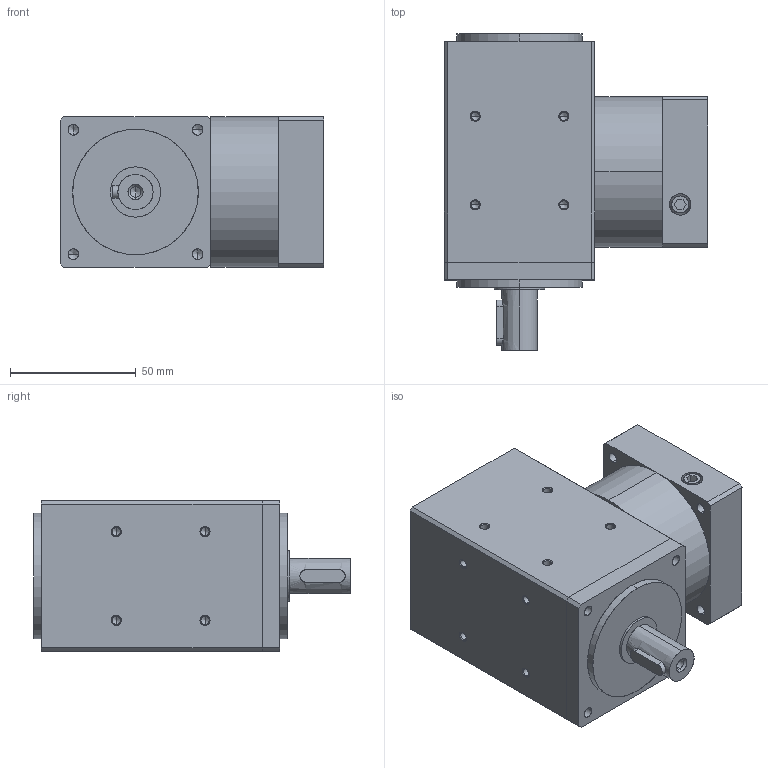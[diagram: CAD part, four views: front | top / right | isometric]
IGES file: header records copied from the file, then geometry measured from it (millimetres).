
Start section: SolidWorks IGES file using analytic representation for surfaces
Global section: file name: C:\Users\render\Documents\CAD Files\R-Gearboxes\RAAS\RAAS-060.IGS; native system: SolidWorks 2009; preprocessor: SolidWorks 2009; author: render; date: 100527.144235; units: millimetre
Bounding box: 105 x 126 x 60 mm (x, y, z)
Surface area: 64792.1 mm2 (no closed solid volume)
Topology: 0 solids, 0 shells, 214 faces, 3429 edges, 3387 vertices
Faces by surface type: revolution 167, bspline 47
